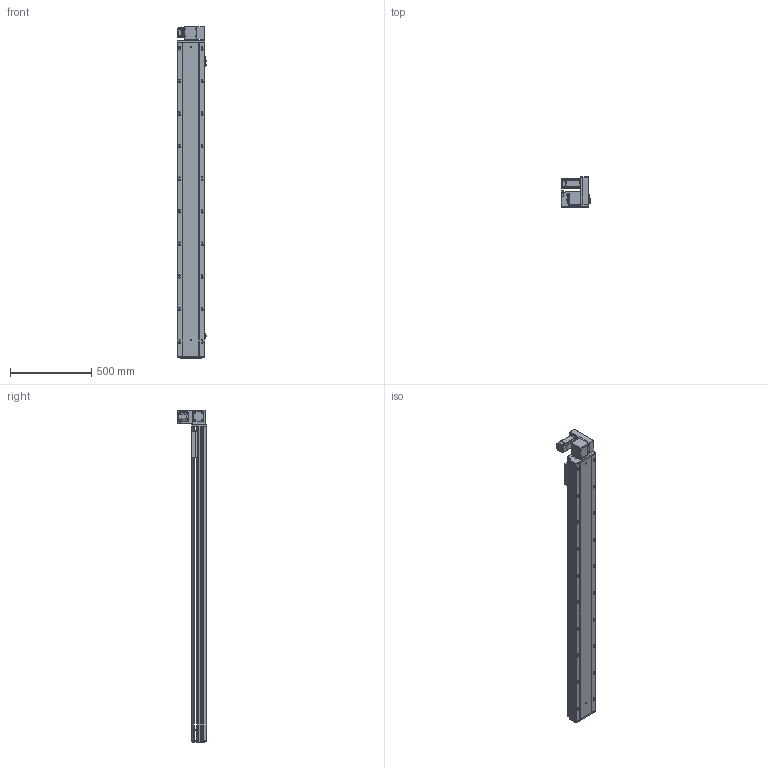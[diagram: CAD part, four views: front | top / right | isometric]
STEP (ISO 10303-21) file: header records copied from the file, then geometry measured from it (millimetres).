
FILE_DESCRIPTION (( 'STEP AP203' ), '1' );
FILE_NAME ('RY170-T-300-UR-P400W.SLDASM_1650.step', '2021-03-01T09:28:34', ( '盈信电脑' ), ( '东莞市道滘镇水果街19号' ), 'SwSTEP 2.0', 'SolidWorks 2012', '' );
FILE_SCHEMA (( 'CONFIG_CONTROL_DESIGN' ));
Length unit declared in the file: millimetre
Products named in the file (18): RY170-T-300-UR-P400W.SLDASM_1650; 15; RY170-T肮祭謫裔啣; RY170-T蹟翐M4; 滅袉蝶18-10; RY170-T肮祭湍揤踡輸2; RY120-T主同步轮轴承压盖; RY170-T肮祭湍揤踡輸1; RY170肮祭謫萇儂欶; RY170翋肮祭謫釱; RY170肮祭謫ヶ裔啣; RY170同步轮电机安装板(400W); 覜茼ん672; RY170綴裔啣; RY170-T-300肮祭謫倰第裔啣-DR_1650; RY170外置感应片(200共用）; RY170-T-300肮祭謫倰第菁釱-DR_1650; RY170肮祭湍臏賑輸
Assembly tree (22 placements, depth 2):
  RY170-T-300-UR-P400W.SLDASM_1650
    RY170-T-300肮祭謫倰第菁釱-DR_1650
    RY170肮祭湍臏賑輸
    RY170-T-300肮祭謫倰第裔啣-DR_1650
    RY170綴裔啣
    覜茼ん672  x3
    RY170外置感应片(200共用）
    RY170肮祭謫ヶ裔啣
    RY170翋肮祭謫釱
    RY170同步轮电机安装板(400W)
    RY170肮祭謫萇儂欶
    RY170-T肮祭湍揤踡輸1  x2
    RY170-T肮祭湍揤踡輸2  x2
    RY120-T主同步轮轴承压盖
    RY170-T肮祭謫裔啣
    RY170-T蹟翐M4
    滅袉蝶18-10  x2
    15
Bounding box: 183.7 x 182 x 2038 mm (x, y, z)
Volume: 9628746.6 mm3; surface area: 3303864 mm2
Topology: 22 solids, 22 shells, 2916 faces, 8138 edges, 5197 vertices
Faces by surface type: cylinder 1336, plane 1266, cone 284, bspline 30
Entity records: 87896 total; most frequent: CARTESIAN_POINT 20017, ORIENTED_EDGE 13888, DIRECTION 13604, EDGE_CURVE 6944, AXIS2_PLACEMENT_3D 4814, VERTEX_POINT 4553, VECTOR 3976, LINE 3976
